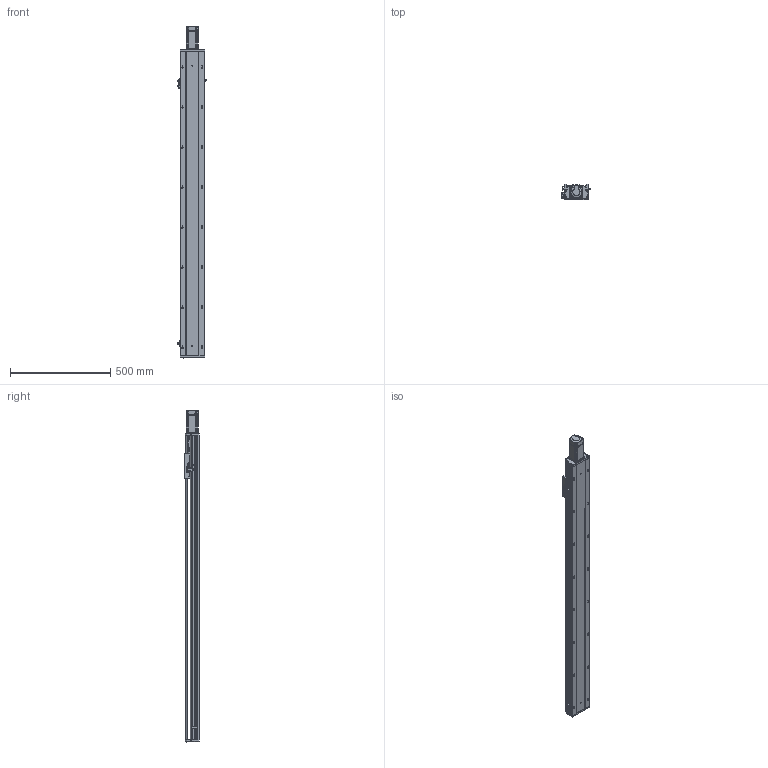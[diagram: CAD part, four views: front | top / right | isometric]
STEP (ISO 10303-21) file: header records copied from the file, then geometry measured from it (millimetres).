
FILE_DESCRIPTION (( 'STEP AP203' ), '1' );
FILE_NAME ('RYK120-L1610-S1250-M40-C3-MK.STEP', '2026-03-09T07:53:36', ( '' ), ( '' ), 'SwSTEP 2.0', 'SolidWorks 2016', '' );
FILE_SCHEMA (( 'CONFIG_CONTROL_DESIGN' ));
Length unit declared in the file: millimetre
Products named in the file (17): 15; 侂狟400W侜督萇儂; 2.10.1.C521-V1.0RY120臏賑輸16蹟譫-啞-JZZY-NRL-L1899; 覜茼ん672; RY120綴裔啣; RYK120-300-MK-菁釱-啞_1250; RY120外置感应片(140共用）; RY120QGB-1.8; RY120电机端支撑座-压铸加工-M5; 滅袉蝶18-24; RYK120-L1610-S1250-M40-C3-MK; CB╱T 3762-1996[锥形润滑油嘴1-ZM10×1]_1-ZM10×1; 滅袉蝶18-10; RY120-16螺母油路-集中注油组合; RYK120-300-MK-奻裔啣-啞_1250; RYK170-薊粣ん芵隴裔啣; 44-49-12-14
Assembly tree (21 placements, depth 3):
  RYK120-L1610-S1250-M40-C3-MK
    RYK120-300-MK-菁釱-啞_1250
    RYK120-300-MK-奻裔啣-啞_1250
    RY120綴裔啣
    滅袉蝶18-24  x2
    滅袉蝶18-10  x2
    覜茼ん672  x3
    RY120外置感应片(140共用）
    RY120QGB-1.8
    RY120-16螺母油路-集中注油组合
      2.10.1.C521-V1.0RY120臏賑輸16蹟譫-啞-JZZY-NRL-L1899
      CB╱T 3762-1996[锥形润滑油嘴1-ZM10×1]_1-ZM10×1  x2
    RY120电机端支撑座-压铸加工-M5
    RYK170-薊粣ん芵隴裔啣
    44-49-12-14
    侂狟400W侜督萇儂
      15
Bounding box: 145.7 x 73 x 1658.5 mm (x, y, z)
Volume: 4249174.8 mm3; surface area: 1530433.3 mm2
Topology: 23 solids, 23 shells, 2708 faces, 7514 edges, 4783 vertices
Faces by surface type: plane 1211, cylinder 1069, cone 301, bspline 127
Entity records: 90168 total; most frequent: CARTESIAN_POINT 26016, ORIENTED_EDGE 13464, DIRECTION 12387, EDGE_CURVE 6732, VERTEX_POINT 4395, AXIS2_PLACEMENT_3D 4278, LINE 3831, VECTOR 3831
